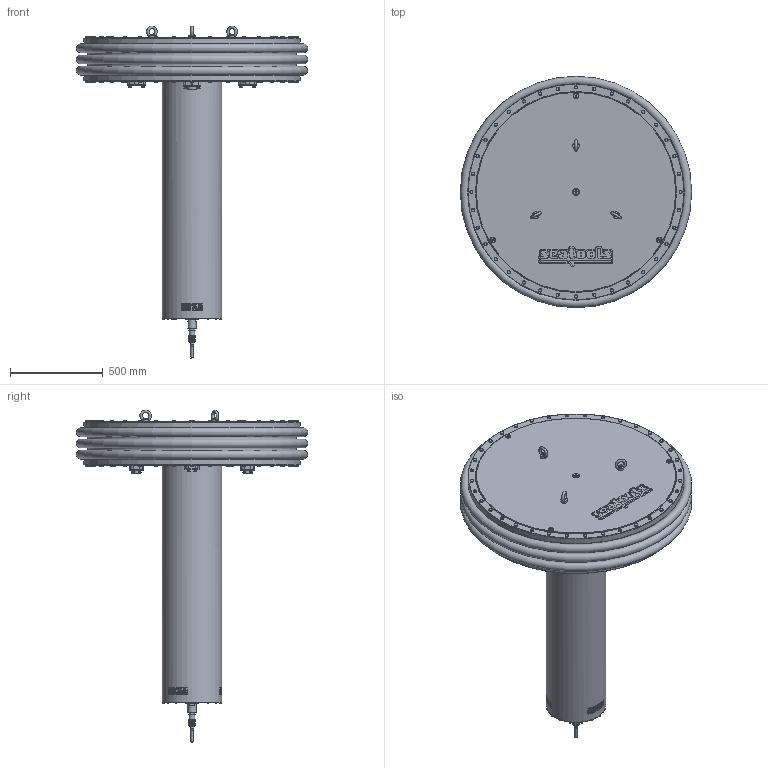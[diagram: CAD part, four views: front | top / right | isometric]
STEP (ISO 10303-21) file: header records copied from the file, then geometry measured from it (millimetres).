
FILE_DESCRIPTION(/* description */ ('Bellow Compensator 250L'),/* implementation_level */ '2;1');
FILE_NAME(/* name */ 'C:\Users\Mathijs\Desktop\Steps\ME-0271-0011.stp',/* time_stamp */ '2018-02-16T10:18:40+01:00',/* author */ ('Mathijs'),/* organization */ ('Seatools'),/* preprocessor_version */ 'ST-DEVELOPER v16.1',/* originating_system */ 'Autodesk Inventor 2016',/* authorisation */ '');
FILE_SCHEMA (('AUTOMOTIVE_DESIGN { 1 0 10303 214 3 1 1 }'));
Length unit declared in the file: millimetre
Products named in the file (1): ME-0271-0011
Bounding box: 1249.91 x 1249.91 x 1793.42 mm (x, y, z)
Volume: 374079311.5 mm3; surface area: 5666476.2 mm2
Topology: 1 solids, 6 shells, 3323 faces, 8192 edges, 5266 vertices
Faces by surface type: plane 1673, bspline 572, cylinder 502, cone 493, torus 83
Full cylindrical faces by diameter (mm): 7 x4, 8 x4, 10 x16, 10.106 x24, 11 x1, 15.4 x72, 16 x3, 18 x16, 18.631 x3, 20 x1, 25 x1, 25.5 x1, 26 x7, 28 x1, 28.575 x3, 31 x7, 31.6 x1, 32 x1, 33 x1, 35 x4, 36 x1, 38 x4, 47 x1, 48.6 x2, 120 x4, 322 x1, 323 x1, 1170 x2
Entity records: 112753 total; most frequent: CARTESIAN_POINT 38368, ORIENTED_EDGE 15572, DIRECTION 12903, EDGE_CURVE 7786, VERTEX_POINT 5159, AXIS2_PLACEMENT_3D 4674, EDGE_LOOP 4007, LINE 3555
